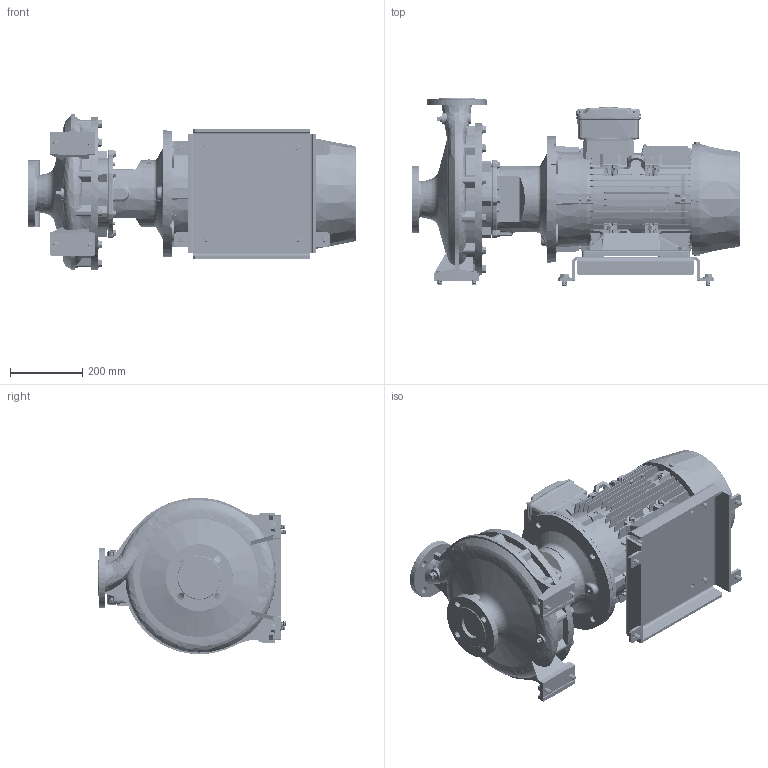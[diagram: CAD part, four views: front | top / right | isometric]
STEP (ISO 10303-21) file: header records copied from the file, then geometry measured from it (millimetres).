
FILE_DESCRIPTION (( 'STEP AP214' ), '1' );
FILE_NAME ('GSD4 50-315_11.0_(160ML)_W21.STEP', '2026-06-18T06:58:37', ( '' ), ( '' ), 'SwSTEP 2.0', 'SolidWorks 2024', '' );
FILE_SCHEMA (( 'AUTOMOTIVE_DESIGN' ));
Length unit declared in the file: millimetre
Products named in the file (11): CGS11-5253; Parametric bolt_SFT-A299B; Parametric bolt and washer_SFT-A303B; GSD4 50-315_11.0_(160ML)_W21; Parametric Flat Washer_M12; Parametric bolt and washer_SFT-A299B; 50-315-160M_L_ﾃﾞﾌｫﾙﾄ; Parametric bolt_SFT-A303B; Parametric bolt and washer_SFT-A297B; Parametric bolt_SFT-A297B; 160M_L_ALIE3_W21T_B35
Assembly tree (21 placements, depth 3):
  GSD4 50-315_11.0_(160ML)_W21
    50-315-160M_L_ﾃﾞﾌｫﾙﾄ
    CGS11-5253
    Parametric bolt and washer_SFT-A299B  x4
      Parametric bolt_SFT-A299B
      Parametric Flat Washer_M12
    Parametric bolt and washer_SFT-A297B  x4
      Parametric bolt_SFT-A297B
      Parametric Flat Washer_M12
    Parametric bolt and washer_SFT-A303B  x4
      Parametric bolt_SFT-A303B
      Parametric Flat Washer_M12
    160M_L_ALIE3_W21T_B35
Bounding box: 910.3 x 519.5 x 432.56 mm (x, y, z)
Volume: 52504663.4 mm3; surface area: 3449507 mm2
Topology: 64 solids, 70 shells, 6549 faces, 16923 edges, 10931 vertices
Faces by surface type: plane 3881, cylinder 1315, cone 633, bspline 472, torus 232, sphere 16
Entity records: 237922 total; most frequent: CARTESIAN_POINT 97499, ORIENTED_EDGE 30870, DIRECTION 25963, EDGE_CURVE 15435, VERTEX_POINT 9983, LINE 9711, VECTOR 9711, AXIS2_PLACEMENT_3D 8126
